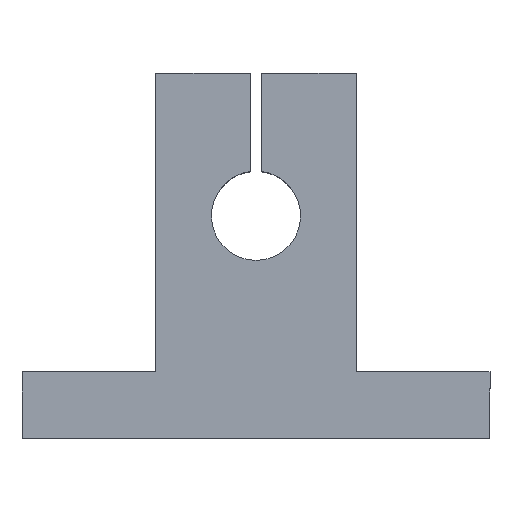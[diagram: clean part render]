
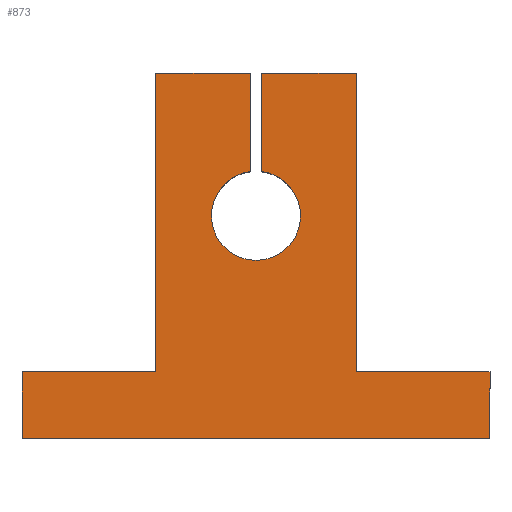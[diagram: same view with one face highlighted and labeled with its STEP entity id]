
A CAD part, top view. The second image highlights one B-rep face of the part: STEP entity #873.
In plain terms, the highlighted planar face has unit normal (0, 0, 1).
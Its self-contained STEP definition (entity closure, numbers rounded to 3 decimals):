
#51=CARTESIAN_POINT('',(25.302,17.903,14.));
#52=VERTEX_POINT('',#51);
#59=CARTESIAN_POINT('',(21.802,21.872,14.));
#60=VERTEX_POINT('',#59);
#61=CARTESIAN_POINT('',(21.302,17.903,14.));
#62=DIRECTION('',(0.0,0.0,-1.0));
#63=DIRECTION('',(-1.0,0.0,0.0));
#64=AXIS2_PLACEMENT_3D('',#61,#62,#63);
#65=CIRCLE('',#64,4.0);
#66=EDGE_CURVE('',#60,#52,#65,.T.);
#91=CARTESIAN_POINT('',(17.302,17.903,14.));
#92=VERTEX_POINT('',#91);
#101=CARTESIAN_POINT('',(21.302,17.903,14.));
#102=DIRECTION('',(0.0,0.0,-1.0));
#103=DIRECTION('',(-1.0,0.0,0.0));
#104=AXIS2_PLACEMENT_3D('',#101,#102,#103);
#105=CIRCLE('',#104,4.0);
#106=EDGE_CURVE('',#52,#92,#105,.T.);
#590=CARTESIAN_POINT('',(20.802,21.872,14.));
#591=VERTEX_POINT('',#590);
#606=CARTESIAN_POINT('',(20.802,30.703,14.));
#607=VERTEX_POINT('',#606);
#614=CARTESIAN_POINT('',(20.802,21.872,14.));
#615=DIRECTION('',(0.0,1.0,0.0));
#616=VECTOR('',#615,8.831);
#617=LINE('',#614,#616);
#618=EDGE_CURVE('',#591,#607,#617,.T.);
#633=CARTESIAN_POINT('',(21.802,30.703,14.));
#634=VERTEX_POINT('',#633);
#635=CARTESIAN_POINT('',(21.802,30.703,14.));
#636=DIRECTION('',(0.0,-1.0,0.0));
#637=VECTOR('',#636,8.831);
#638=LINE('',#635,#637);
#639=EDGE_CURVE('',#634,#60,#638,.T.);
#676=CARTESIAN_POINT('',(12.302,30.703,14.));
#677=VERTEX_POINT('',#676);
#684=CARTESIAN_POINT('',(12.302,30.703,14.));
#685=DIRECTION('',(1.0,0.0,0.0));
#686=VECTOR('',#685,8.5);
#687=LINE('',#684,#686);
#688=EDGE_CURVE('',#677,#607,#687,.T.);
#699=CARTESIAN_POINT('',(30.302,30.703,14.));
#700=VERTEX_POINT('',#699);
#701=CARTESIAN_POINT('',(21.802,30.703,14.));
#702=DIRECTION('',(1.0,0.0,0.0));
#703=VECTOR('',#702,8.5);
#704=LINE('',#701,#703);
#705=EDGE_CURVE('',#634,#700,#704,.T.);
#799=CARTESIAN_POINT('',(21.302,10.004,14.));
#800=DIRECTION('',(0.0,0.0,1.0));
#801=DIRECTION('',(1.0,0.0,0.0));
#802=AXIS2_PLACEMENT_3D('',#799,#800,#801);
#803=PLANE('',#802);
#804=ORIENTED_EDGE('',*,*,#618,.T.);
#805=ORIENTED_EDGE('',*,*,#688,.F.);
#806=CARTESIAN_POINT('',(12.302,3.903,14.));
#807=VERTEX_POINT('',#806);
#808=CARTESIAN_POINT('',(12.302,3.903,14.));
#809=DIRECTION('',(0.0,1.0,0.0));
#810=VECTOR('',#809,26.8);
#811=LINE('',#808,#810);
#812=EDGE_CURVE('',#807,#677,#811,.T.);
#813=ORIENTED_EDGE('',*,*,#812,.F.);
#814=CARTESIAN_POINT('',(0.302,3.903,14.));
#815=VERTEX_POINT('',#814);
#816=CARTESIAN_POINT('',(0.302,3.903,14.));
#817=DIRECTION('',(1.0,0.0,0.0));
#818=VECTOR('',#817,12.);
#819=LINE('',#816,#818);
#820=EDGE_CURVE('',#815,#807,#819,.T.);
#821=ORIENTED_EDGE('',*,*,#820,.F.);
#822=CARTESIAN_POINT('',(0.302,-2.097,14.));
#823=VERTEX_POINT('',#822);
#824=CARTESIAN_POINT('',(0.302,-2.097,14.));
#825=DIRECTION('',(0.0,1.0,0.0));
#826=VECTOR('',#825,6.);
#827=LINE('',#824,#826);
#828=EDGE_CURVE('',#823,#815,#827,.T.);
#829=ORIENTED_EDGE('',*,*,#828,.F.);
#830=CARTESIAN_POINT('',(42.302,-2.097,14.));
#831=VERTEX_POINT('',#830);
#832=CARTESIAN_POINT('',(42.302,-2.097,14.));
#833=DIRECTION('',(-1.0,0.0,0.0));
#834=VECTOR('',#833,42.);
#835=LINE('',#832,#834);
#836=EDGE_CURVE('',#831,#823,#835,.T.);
#837=ORIENTED_EDGE('',*,*,#836,.F.);
#838=CARTESIAN_POINT('',(42.302,3.903,14.));
#839=VERTEX_POINT('',#838);
#840=CARTESIAN_POINT('',(42.302,3.903,14.));
#841=DIRECTION('',(0.0,-1.0,0.0));
#842=VECTOR('',#841,6.);
#843=LINE('',#840,#842);
#844=EDGE_CURVE('',#839,#831,#843,.T.);
#845=ORIENTED_EDGE('',*,*,#844,.F.);
#846=CARTESIAN_POINT('',(30.302,3.903,14.));
#847=VERTEX_POINT('',#846);
#848=CARTESIAN_POINT('',(30.302,3.903,14.));
#849=DIRECTION('',(1.0,0.0,0.0));
#850=VECTOR('',#849,12.);
#851=LINE('',#848,#850);
#852=EDGE_CURVE('',#847,#839,#851,.T.);
#853=ORIENTED_EDGE('',*,*,#852,.F.);
#854=CARTESIAN_POINT('',(30.302,30.703,14.));
#855=DIRECTION('',(0.0,-1.0,0.0));
#856=VECTOR('',#855,26.8);
#857=LINE('',#854,#856);
#858=EDGE_CURVE('',#700,#847,#857,.T.);
#859=ORIENTED_EDGE('',*,*,#858,.F.);
#860=ORIENTED_EDGE('',*,*,#705,.F.);
#861=ORIENTED_EDGE('',*,*,#639,.T.);
#862=ORIENTED_EDGE('',*,*,#66,.T.);
#863=ORIENTED_EDGE('',*,*,#106,.T.);
#864=CARTESIAN_POINT('',(21.302,17.903,14.));
#865=DIRECTION('',(0.0,0.0,-1.0));
#866=DIRECTION('',(-1.0,0.0,0.0));
#867=AXIS2_PLACEMENT_3D('',#864,#865,#866);
#868=CIRCLE('',#867,4.0);
#869=EDGE_CURVE('',#92,#591,#868,.T.);
#870=ORIENTED_EDGE('',*,*,#869,.T.);
#871=EDGE_LOOP('',(#804,#805,#813,#821,#829,#837,#845,#853,#859,#860,#861,#862,#863,#870));
#872=FACE_OUTER_BOUND('',#871,.T.);
#873=ADVANCED_FACE('',(#872),#803,.T.);
